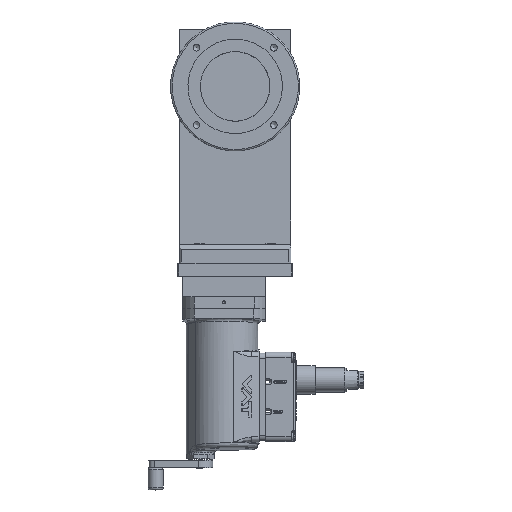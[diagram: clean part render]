
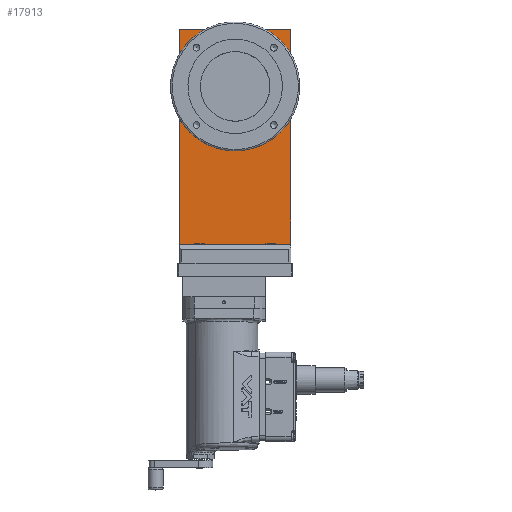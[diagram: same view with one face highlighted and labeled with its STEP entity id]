
A CAD part, top view. The second image highlights one B-rep face of the part: STEP entity #17913.
In plain terms, the highlighted planar face has unit normal (0, 0, 1).
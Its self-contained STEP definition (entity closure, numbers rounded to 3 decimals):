
#6057=LINE('',#56334,#9024);
#6062=LINE('',#56349,#9029);
#6064=LINE('',#56353,#9031);
#6067=LINE('',#56358,#9034);
#9024=VECTOR('',#47483,1.);
#9029=VECTOR('',#47490,1.);
#9031=VECTOR('',#47494,1.);
#9034=VECTOR('',#47499,1.);
#17913=ADVANCED_FACE('',(#21155,#21156),#19911,.T.);
#19911=PLANE('',#43779);
#21155=FACE_BOUND('',#22264,.T.);
#21156=FACE_BOUND('',#22265,.T.);
#22264=EDGE_LOOP('',(#25522,#25523,#25524,#25525));
#22265=EDGE_LOOP('',(#25526));
#25522=ORIENTED_EDGE('',*,*,#38226,.F.);
#25523=ORIENTED_EDGE('',*,*,#38232,.T.);
#25524=ORIENTED_EDGE('',*,*,#38237,.T.);
#25525=ORIENTED_EDGE('',*,*,#38234,.T.);
#25526=ORIENTED_EDGE('',*,*,#38239,.F.);
#34594=VERTEX_POINT('',#56333);
#34595=VERTEX_POINT('',#56335);
#34599=VERTEX_POINT('',#56348);
#34601=VERTEX_POINT('',#56354);
#34603=VERTEX_POINT('',#56363);
#38226=EDGE_CURVE('',#34594,#34595,#6057,.T.);
#38232=EDGE_CURVE('',#34594,#34599,#6062,.T.);
#38234=EDGE_CURVE('',#34601,#34595,#6064,.T.);
#38237=EDGE_CURVE('',#34599,#34601,#6067,.T.);
#38239=EDGE_CURVE('',#34603,#34603,#42610,.T.);
#42610=CIRCLE('',#43777,35.05);
#43777=AXIS2_PLACEMENT_3D('',#56362,#47504,#47505);
#43779=AXIS2_PLACEMENT_3D('',#56365,#47508,#47509);
#47483=DIRECTION('',(-1.,0.,0.));
#47490=DIRECTION('',(0.,1.,0.));
#47494=DIRECTION('',(0.,-1.,0.));
#47499=DIRECTION('',(-1.,0.,0.));
#47504=DIRECTION('',(0.,0.,1.));
#47505=DIRECTION('',(1.,0.,0.));
#47508=DIRECTION('',(0.,0.,1.));
#47509=DIRECTION('',(1.,0.,0.));
#56333=CARTESIAN_POINT('',(56.,-177.8,26.975));
#56334=CARTESIAN_POINT('',(0.,-177.8,26.975));
#56335=CARTESIAN_POINT('',(-56.,-177.8,26.975));
#56348=CARTESIAN_POINT('',(56.,57.05,26.975));
#56349=CARTESIAN_POINT('',(56.,-179.1,26.975));
#56353=CARTESIAN_POINT('',(-56.,57.05,26.975));
#56354=CARTESIAN_POINT('',(-56.,57.05,26.975));
#56358=CARTESIAN_POINT('',(56.,57.05,26.975));
#56362=CARTESIAN_POINT('',(0.,0.,
26.975));
#56363=CARTESIAN_POINT('',(35.05,0.,26.975));
#56365=CARTESIAN_POINT('',(0.,0.,
26.975));
